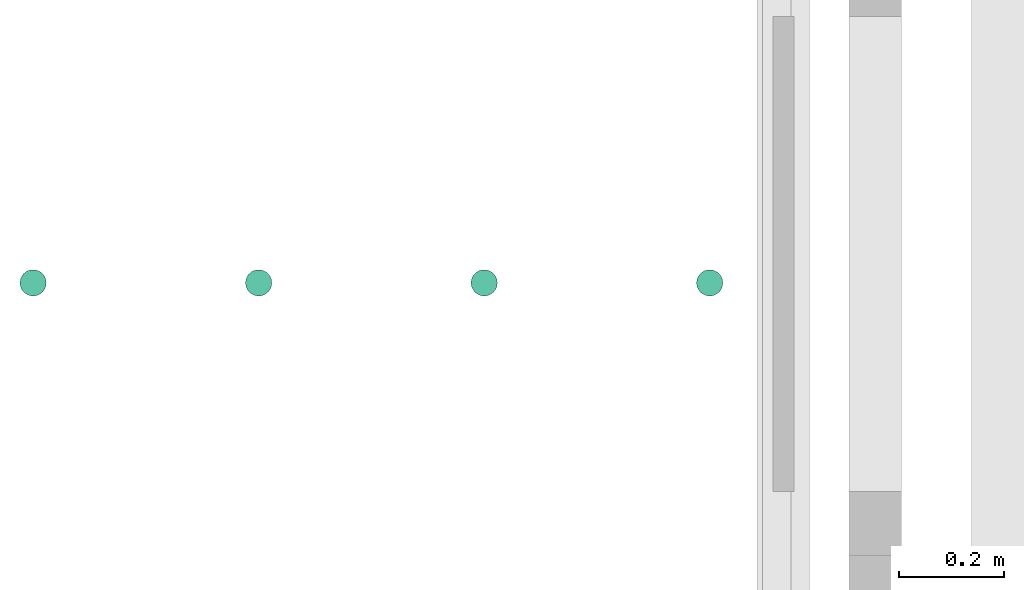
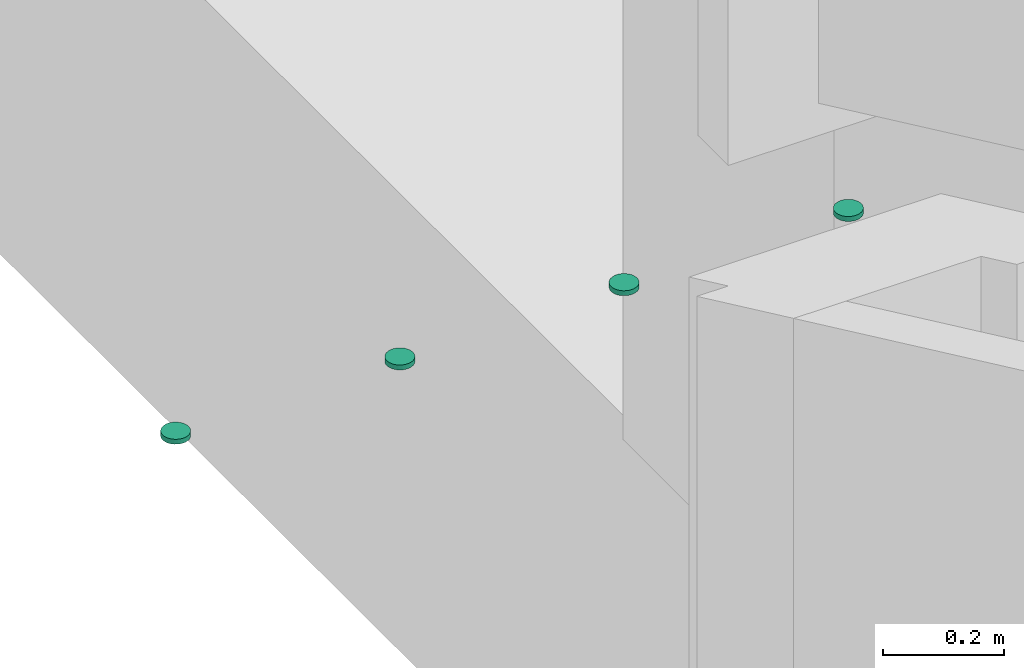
# One storey, part 5 of 6: 4 flow terminals.
"""IFC2X3 building model written with IfcOpenShell, lengths in millimetres."""

from ifc_helpers import new_model, entity, si_unit, converted_unit, derived_unit, direction, frame, frame_2d, origin, place, context, subcontext, project, spatial, circle, extrude, source, transform, mapped, material, type_object, type_shapes, element, save


model = new_model("IFC2X3")

# Units and contexts
model_context = context("Model", 3, precision=0.01, world=origin(), true_north=direction((6.12303176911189e-17, 1.0)))
body_context = subcontext(model_context, "Body", "Model", "MODEL_VIEW")
ifc_project = project(units=[si_unit("LENGTHUNIT", "METRE", prefix="MILLI"), si_unit("AREAUNIT", "SQUARE_METRE"), si_unit("VOLUMEUNIT", "CUBIC_METRE"), converted_unit("PLANEANGLEUNIT", "DEGREE", entity("IfcRatioMeasure", 0.0174532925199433), si_unit("PLANEANGLEUNIT", "RADIAN"), dimensions=[0, 0, 0, 0, 0, 0, 0]), si_unit("MASSUNIT", "GRAM", prefix="KILO"), derived_unit("MASSDENSITYUNIT", [(si_unit("MASSUNIT", "GRAM", prefix="KILO"), 1), (si_unit("LENGTHUNIT", "METRE"), -3)]), si_unit("TIMEUNIT", "SECOND"), si_unit("FREQUENCYUNIT", "HERTZ"), si_unit("THERMODYNAMICTEMPERATUREUNIT", "DEGREE_CELSIUS"), derived_unit("THERMALTRANSMITTANCEUNIT", [(si_unit("MASSUNIT", "GRAM", prefix="KILO"), 1), (si_unit("THERMODYNAMICTEMPERATUREUNIT", "KELVIN"), -1), (si_unit("TIMEUNIT", "SECOND"), -3)]), derived_unit("VOLUMETRICFLOWRATEUNIT", [(si_unit("LENGTHUNIT", "METRE"), 3), (si_unit("TIMEUNIT", "SECOND"), -1)]), si_unit("ELECTRICCURRENTUNIT", "AMPERE"), si_unit("ELECTRICVOLTAGEUNIT", "VOLT"), si_unit("POWERUNIT", "WATT"), si_unit("FORCEUNIT", "NEWTON", prefix="KILO"), si_unit("ILLUMINANCEUNIT", "LUX"), si_unit("LUMINOUSFLUXUNIT", "LUMEN"), si_unit("LUMINOUSINTENSITYUNIT", "CANDELA"), derived_unit("USERDEFINED", [(si_unit("MASSUNIT", "GRAM", prefix="KILO"), -1), (si_unit("LENGTHUNIT", "METRE"), -2), (si_unit("TIMEUNIT", "SECOND"), 3), (si_unit("LUMINOUSFLUXUNIT", "LUMEN"), 1)]), derived_unit("LINEARVELOCITYUNIT", [(si_unit("LENGTHUNIT", "METRE"), 1), (si_unit("TIMEUNIT", "SECOND"), -1)]), si_unit("PRESSUREUNIT", "PASCAL"), derived_unit("USERDEFINED", [(si_unit("LENGTHUNIT", "METRE"), -2), (si_unit("MASSUNIT", "GRAM", prefix="KILO"), 1), (si_unit("TIMEUNIT", "SECOND"), -2)])], contexts=[model_context])

# Site, building, storey, space
site_placement = place(None, frame((-151.875543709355, 2715.0, 0.0)))
site = spatial("IfcSite", under=ifc_project, at=site_placement, Name="Surface", CompositionType="ELEMENT")
building_placement = place(site_placement, origin())
building = spatial("IfcBuilding", under=site, at=building_placement, CompositionType="ELEMENT")
storey_placement = place(building_placement, frame((0.0, 0.0, 13600.0)))
storey = spatial("IfcBuildingStorey", under=building, at=storey_placement, Name="Katusekorrus", CompositionType="ELEMENT", Elevation=13600.0000000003)
space_placement = place(storey_placement, origin())
space = spatial("IfcSpace", under=storey, at=space_placement, Name="501", CompositionType="ELEMENT", InteriorOrExteriorSpace="INTERNAL")

# Flow terminals
ifc_material = material(Name="Cibes_spotlight")
light_fixture_type = type_object("IfcLightFixtureType", Name="___LED___subcomponent", PredefinedType="NOTDEFINED", material=ifc_material)
shared_shape = source(origin(), body_context, "Body", "SweptSolid", [
    extrude(circle(Radius=25.0, at=frame_2d((7.79148144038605e-16, -4.03886143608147e-14), x_axis=(1.0, 0.0))), frame((0.0, 0.0, 1500.0)), (0.0, 0.0, 1.0), 9.99999999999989),
])
type_shapes(light_fixture_type, [shared_shape])
for number, where, z_axis, x_axis, name in (
    (1, (-1235.88338300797, 5290.0, 2579.84480023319), (0.0, 0.0, 1.0), (-1.0, 0.0, 0.0), "___LED___subcomponent:___LED___subcomponent"),
    (2, (-2093.88338300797, 5290.0, 2579.84480023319), (0.0, 0.0, 1.0), (-1.0, 0.0, 0.0), "___LED___subcomponent:___LED___subcomponent"),
    (3, (-806.883383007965, 5290.0, 2579.84480023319), (0.0, 0.0, 1.0), (-1.0, 0.0, 0.0), "___LED___subcomponent:___LED___subcomponent"),
    (4, (-1664.88338300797, 5290.0, 2579.84480023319), (0.0, 0.0, 1.0), (-1.0, 0.0, 0.0), "___LED___subcomponent:___LED___subcomponent"),
):
    element("IfcFlowTerminal", number, at=place(space_placement, frame(where, z_axis=z_axis, x_axis=x_axis)), inside=space, type_object=light_fixture_type, material=ifc_material, Name=name, ObjectType="___LED___subcomponent", context=body_context, shape_type="MappedRepresentation", body=[
        mapped(shared_shape, transform((0.0, 0.0, 0.0), scale=1.0)),
    ])

save(model, "model.ifc")
